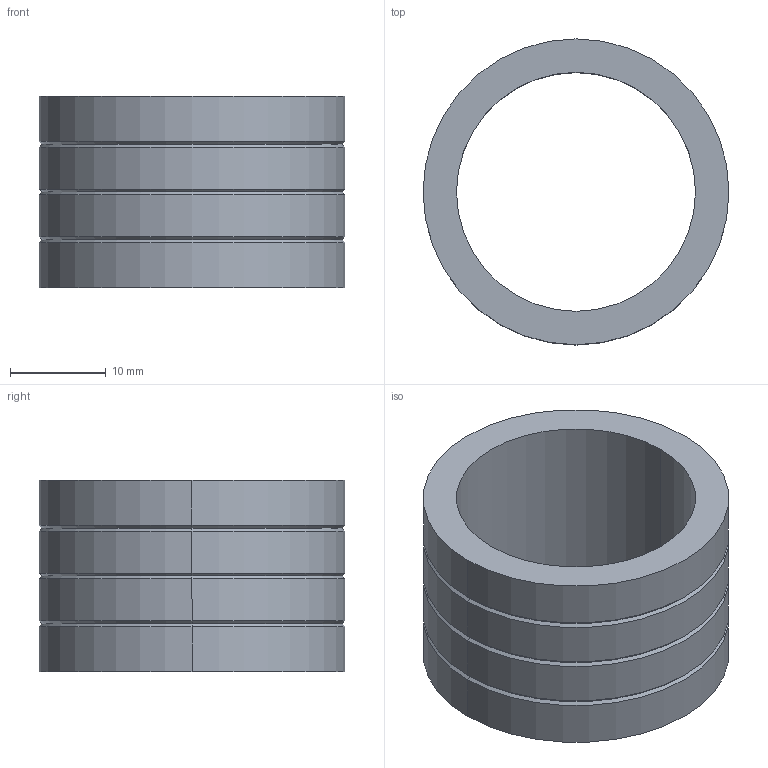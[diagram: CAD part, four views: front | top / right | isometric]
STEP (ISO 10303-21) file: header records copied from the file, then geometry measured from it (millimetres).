
FILE_DESCRIPTION(/* description */ (''),/* implementation_level */ '2;1');
FILE_NAME(/* name */ '3d_sgbl25-20_00009_r00.stp',/* time_stamp */ '2011-01-10T14:11:12+09:00',/* author */ ('MISUMI'),/* organization */ (''),/* preprocessor_version */ 'ST-DEVELOPER v11',/* originating_system */ 'UGS - NX 5.0',/* authorisation */ '');
FILE_SCHEMA (('CONFIG_CONTROL_DESIGN'));
Length unit declared in the file: millimetre
Products named in the file (1): 3d_sgbl25-20_00009_r00
Bounding box: 32 x 32 x 20 mm (x, y, z)
Volume: 6240.5 mm3; surface area: 4280.7 mm2
Topology: 1 solids, 1 shells, 24 faces, 48 edges, 26 vertices
Faces by surface type: cone 12, cylinder 10, plane 2
Entity records: 704 total; most frequent: DIRECTION 124, CARTESIAN_POINT 99, ORIENTED_EDGE 96, AXIS2_PLACEMENT_3D 51, EDGE_CURVE 48, EDGE_LOOP 26, VERTEX_POINT 26, CIRCLE 26
